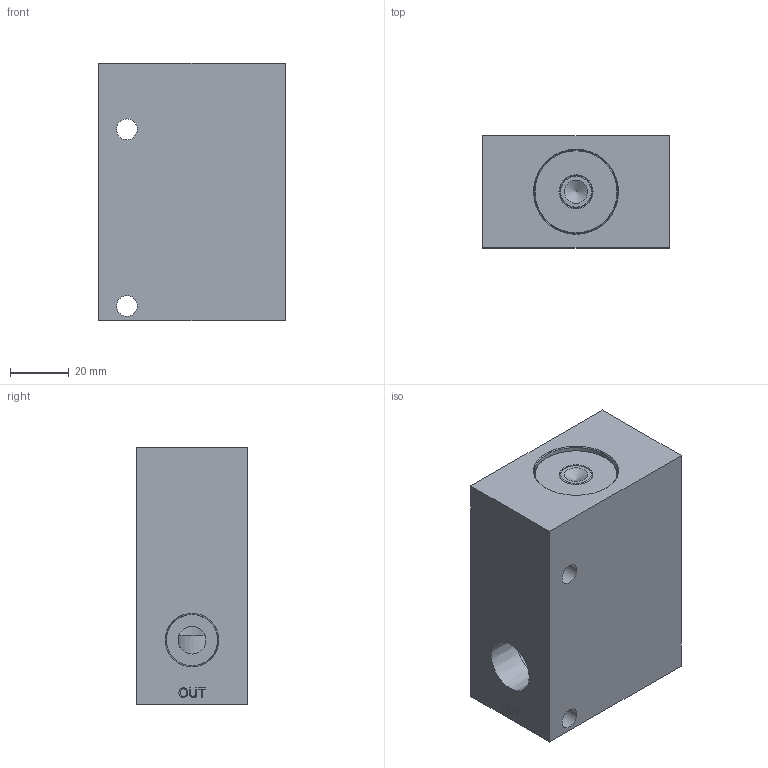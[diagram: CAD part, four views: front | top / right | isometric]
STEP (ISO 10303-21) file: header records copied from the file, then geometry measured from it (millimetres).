
FILE_DESCRIPTION(/* description */ (''),/* implementation_level */ '2;1');
FILE_NAME(/* name */ 'L:\ALADCO\Advertising\3D Content\Valves\Step Files - 2014-11-19 thru Present\41500X.stp',/* time_stamp */ '2014-11-19T16:33:58-06:00',/* author */ ('dmatz'),/* organization */ (''),/* preprocessor_version */ 'ST-DEVELOPER v15.2',/* originating_system */ 'Autodesk Inventor 2014',/* authorisation */ '');
FILE_SCHEMA (('AUTOMOTIVE_DESIGN { 1 0 10303 214 3 1 1 }'));
Length unit declared in the file: inch
Products named in the file (5): 555000NPTF; 311020; 311015; 301076; 515001
Bounding box: 63.5 x 38.1 x 87.99 mm (x, y, z)
Volume: 171541.1 mm3; surface area: 40546.3 mm2
Topology: 4 solids, 4 shells, 187 faces, 429 edges, 280 vertices
Faces by surface type: plane 99, cylinder 29, bspline 26, cone 19, torus 14
Full cylindrical faces by diameter (mm): 1.499 x1, 6.629 x1, 7.112 x2, 7.938 x1, 9.144 x1, 9.525 x2, 10.719 x1, 11.049 x2, 11.1 x1, 12.7 x1, 13.081 x1, 15.081 x1, 17.475 x2, 17.577 x1, 22.149 x1, 24.409 x1, 24.435 x1, 25.4 x2, 28.524 x4, 28.575 x2
Entity records: 5407 total; most frequent: CARTESIAN_POINT 1375, DIRECTION 718, ORIENTED_EDGE 688, EDGE_CURVE 344, EDGE_LOOP 296, VERTEX_POINT 260, AXIS2_PLACEMENT_3D 259, LINE 200
